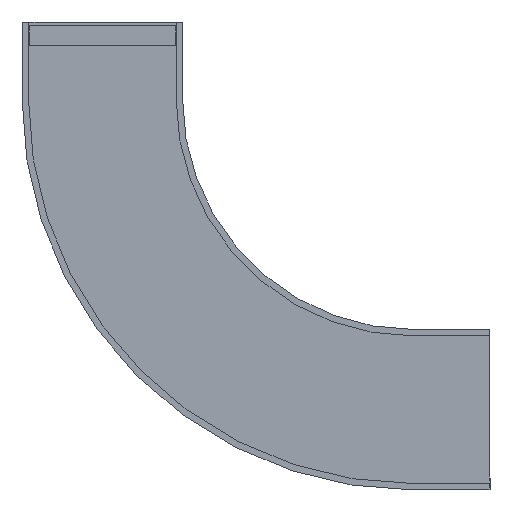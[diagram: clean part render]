
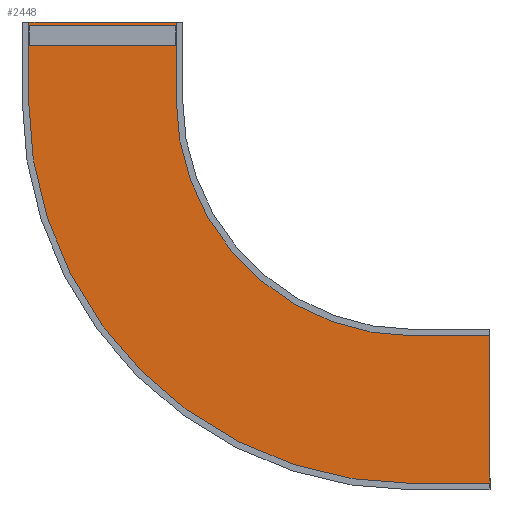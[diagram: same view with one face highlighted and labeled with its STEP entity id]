
A CAD part, front view. The second image highlights one B-rep face of the part: STEP entity #2448.
In plain terms, the highlighted planar face has unit normal (0, -1, 0).
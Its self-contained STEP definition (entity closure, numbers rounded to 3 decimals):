
#18 = CARTESIAN_POINT ( 'NONE',  ( 206.5, -57.525, 0. ) ) ;
#23 = CARTESIAN_POINT ( 'NONE',  ( 206.5, -57.525, -200. ) ) ;
#87 = CARTESIAN_POINT ( 'NONE',  ( 810., -57.525, -1216.5 ) ) ;
#147 = CARTESIAN_POINT ( 'NONE',  ( -206.5, -57.525, 0. ) ) ;
#150 = VERTEX_POINT ( 'NONE', #147 ) ;
#225 = VERTEX_POINT ( 'NONE', #87 ) ;
#276 = VERTEX_POINT ( 'NONE', #23 ) ;
#281 = VERTEX_POINT ( 'NONE', #18 ) ;
#312 = VERTEX_POINT ( 'NONE', #5903 ) ;
#337 = VERTEX_POINT ( 'NONE', #5806 ) ;
#387 = VERTEX_POINT ( 'NONE', #5913 ) ;
#438 = VERTEX_POINT ( 'NONE', #5845 ) ;
#822 = FACE_OUTER_BOUND ( 'NONE', #1897, .T. ) ;
#999 = ORIENTED_EDGE ( 'NONE', *, *, #6220, .T. ) ;
#1000 = ORIENTED_EDGE ( 'NONE', *, *, #3828, .T. ) ;
#1001 = ORIENTED_EDGE ( 'NONE', *, *, #6214, .F. ) ;
#1002 = ORIENTED_EDGE ( 'NONE', *, *, #3675, .F. ) ;
#1003 = ORIENTED_EDGE ( 'NONE', *, *, #3825, .T. ) ;
#1708 = ORIENTED_EDGE ( 'NONE', *, *, #3826, .F. ) ;
#1709 = ORIENTED_EDGE ( 'NONE', *, *, #3827, .F. ) ;
#1710 = ORIENTED_EDGE ( 'NONE', *, *, #3679, .T. ) ;
#1897 = EDGE_LOOP ( 'NONE', ( #1708, #1709, #1710, #999, #1000, #1001, #1002, #1003 ) ) ;
#2302 = DIRECTION ( 'NONE',  ( 1., 0., 0. ) ) ;
#2303 = CARTESIAN_POINT ( 'NONE',  ( 810., -57.525, -1216.5 ) ) ;
#2314 = DIRECTION ( 'NONE',  ( 1., 0., 0. ) ) ;
#2315 = CARTESIAN_POINT ( 'NONE',  ( 810., -57.525, -803.5 ) ) ;
#2448 = ADVANCED_FACE ( 'NONE', ( #822 ), #5115, .T. ) ;
#3005 = DIRECTION ( 'NONE',  ( 0., 0., 1. ) ) ;
#3006 = CARTESIAN_POINT ( 'NONE',  ( 1010., -57.525, -803.5 ) ) ;
#3008 = DIRECTION ( 'NONE',  ( 0., 0., 1. ) ) ;
#3009 = CARTESIAN_POINT ( 'NONE',  ( -206.5, -57.525, -200. ) ) ;
#3012 = DIRECTION ( 'NONE',  ( 1., 0., 0. ) ) ;
#3013 = CARTESIAN_POINT ( 'NONE',  ( 206.5, -57.525, 0. ) ) ;
#3014 = DIRECTION ( 'NONE',  ( 0., 0., 1. ) ) ;
#3015 = CARTESIAN_POINT ( 'NONE',  ( 206.5, -57.525, -200. ) ) ;
#3331 = DIRECTION ( 'NONE',  ( 0., 0., -1. ) ) ;
#3332 = DIRECTION ( 'NONE',  ( 0., -1., 0. ) ) ;
#3333 = CARTESIAN_POINT ( 'NONE',  ( 810., -57.525, -200. ) ) ;
#3343 = DIRECTION ( 'NONE',  ( 0., 0., -1. ) ) ;
#3344 = DIRECTION ( 'NONE',  ( 0., -1., 0. ) ) ;
#3345 = CARTESIAN_POINT ( 'NONE',  ( 810., -57.525, -200. ) ) ;
#3675 = EDGE_CURVE ( 'NONE', #276, #337, #6235, .T. ) ;
#3679 = EDGE_CURVE ( 'NONE', #438, #225, #6229, .T. ) ;
#3825 = EDGE_CURVE ( 'NONE', #276, #281, #4635, .T. ) ;
#3826 = EDGE_CURVE ( 'NONE', #150, #281, #4633, .T. ) ;
#3827 = EDGE_CURVE ( 'NONE', #438, #150, #4631, .T. ) ;
#3828 = EDGE_CURVE ( 'NONE', #312, #387, #4629, .T. ) ;
#4171 = VECTOR ( 'NONE', #2302, 1000. ) ;
#4172 = LINE ( 'NONE', #2303, #4171 ) ;
#4187 = VECTOR ( 'NONE', #2314, 1000. ) ;
#4188 = LINE ( 'NONE', #2315, #4187 ) ;
#4628 = VECTOR ( 'NONE', #3005, 1000. ) ;
#4629 = LINE ( 'NONE', #3006, #4628 ) ;
#4630 = VECTOR ( 'NONE', #3008, 1000. ) ;
#4631 = LINE ( 'NONE', #3009, #4630 ) ;
#4632 = VECTOR ( 'NONE', #3012, 1000. ) ;
#4633 = LINE ( 'NONE', #3013, #4632 ) ;
#4634 = VECTOR ( 'NONE', #3014, 1000. ) ;
#4635 = LINE ( 'NONE', #3015, #4634 ) ;
#5107 = DIRECTION ( 'NONE',  ( 1., 0., 0. ) ) ;
#5109 = DIRECTION ( 'NONE',  ( 0., -1., 0. ) ) ;
#5111 = CARTESIAN_POINT ( 'NONE',  ( 206.5, -57.525, -200. ) ) ;
#5115 = PLANE ( 'NONE',  #6056 ) ;
#5806 = CARTESIAN_POINT ( 'NONE',  ( 810., -57.525, -803.5 ) ) ;
#5845 = CARTESIAN_POINT ( 'NONE',  ( -206.5, -57.525, -200. ) ) ;
#5903 = CARTESIAN_POINT ( 'NONE',  ( 1010., -57.525, -1216.5 ) ) ;
#5913 = CARTESIAN_POINT ( 'NONE',  ( 1010., -57.525, -803.5 ) ) ;
#5945 = AXIS2_PLACEMENT_3D ( 'NONE', #3333, #3332, #3331 ) ;
#5948 = AXIS2_PLACEMENT_3D ( 'NONE', #3345, #3344, #3343 ) ;
#6056 = AXIS2_PLACEMENT_3D ( 'NONE', #5111, #5109, #5107 ) ;
#6214 = EDGE_CURVE ( 'NONE', #337, #387, #4188, .T. ) ;
#6220 = EDGE_CURVE ( 'NONE', #225, #312, #4172, .T. ) ;
#6229 = CIRCLE ( 'NONE', #5945, 1016.5 ) ;
#6235 = CIRCLE ( 'NONE', #5948, 603.5 ) ;
